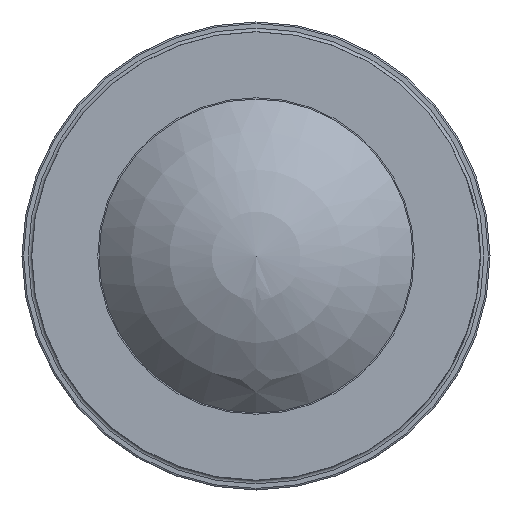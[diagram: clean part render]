
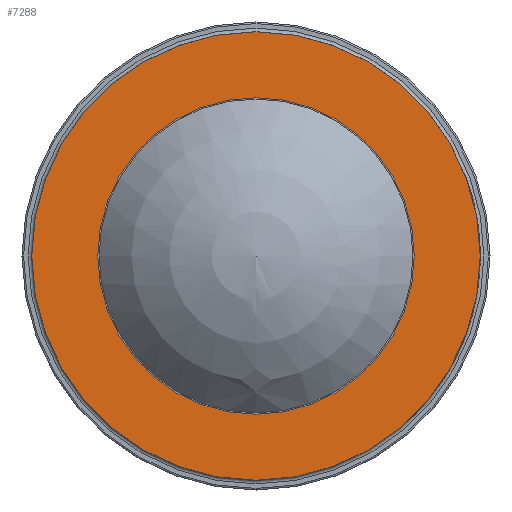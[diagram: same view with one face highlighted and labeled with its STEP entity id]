
A CAD part, left-side view. The second image highlights one B-rep face of the part: STEP entity #7288.
In plain terms, the highlighted planar face has unit normal (-1, 0, 0).
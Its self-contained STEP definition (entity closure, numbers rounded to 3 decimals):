
#265=PLANE('',#7656);
#1366=ORIENTED_EDGE('',*,*,#2902,.T.);
#1367=ORIENTED_EDGE('',*,*,#2903,.F.);
#2902=EDGE_CURVE('',#3666,#3666,#3989,.T.);
#2903=EDGE_CURVE('',#3667,#3667,#3990,.T.);
#3666=VERTEX_POINT('',#10115);
#3667=VERTEX_POINT('',#10117);
#3989=CIRCLE('',#7657,34.354);
#3990=CIRCLE('',#7658,48.679);
#4097=EDGE_LOOP('',(#1366));
#4098=EDGE_LOOP('',(#1367));
#4524=FACE_BOUND('',#4097,.T.);
#4525=FACE_BOUND('',#4098,.T.);
#7288=ADVANCED_FACE('',(#4524,#4525),#265,.F.);
#7656=AXIS2_PLACEMENT_3D('',#10113,#8084,#8085);
#7657=AXIS2_PLACEMENT_3D('',#10114,#8086,#8087);
#7658=AXIS2_PLACEMENT_3D('',#10116,#8088,#8089);
#8084=DIRECTION('',(1.,0.,0.));
#8085=DIRECTION('',(0.,0.,1.));
#8086=DIRECTION('',(1.,0.,0.));
#8087=DIRECTION('',(0.,-1.,0.));
#8088=DIRECTION('',(1.,0.,0.));
#8089=DIRECTION('',(0.,0.,1.));
#10113=CARTESIAN_POINT('',(-181.853,0.,48.679));
#10114=CARTESIAN_POINT('',(-181.853,0.,0.));
#10115=CARTESIAN_POINT('',(-181.853,-34.354,0.));
#10116=CARTESIAN_POINT('',(-181.853,0.,0.));
#10117=CARTESIAN_POINT('',(-181.853,0.,48.679));
